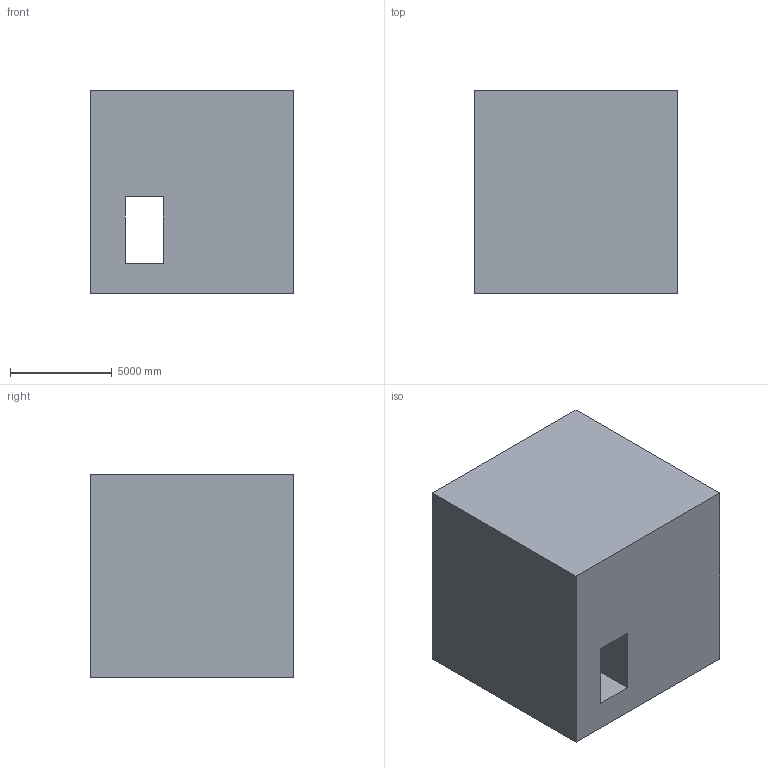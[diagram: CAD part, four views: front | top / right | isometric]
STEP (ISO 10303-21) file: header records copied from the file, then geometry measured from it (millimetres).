
FILE_DESCRIPTION (( 'STEP AP203' ), '1' );
FILE_NAME ('1139.STEP', '2022-08-18T12:54:56', ( 'user' ), ( '' ), 'SwSTEP 2.0', 'SolidWorks 2021', '' );
FILE_SCHEMA (( 'CONFIG_CONTROL_DESIGN' ));
Length unit declared in the file: centimetre
Products named in the file (1): 1139
Bounding box: 10000 x 10000 x 10000 mm (x, y, z)
Volume: 935411012885.3 mm3; surface area: 699276832 mm2
Topology: 1 solids, 1 shells, 14 faces, 33 edges, 22 vertices
Faces by surface type: plane 14
Entity records: 478 total; most frequent: CARTESIAN_POINT 70, ORIENTED_EDGE 66, DIRECTION 63, EDGE_CURVE 33, VECTOR 33, LINE 33, VERTEX_POINT 22, EDGE_LOOP 17
